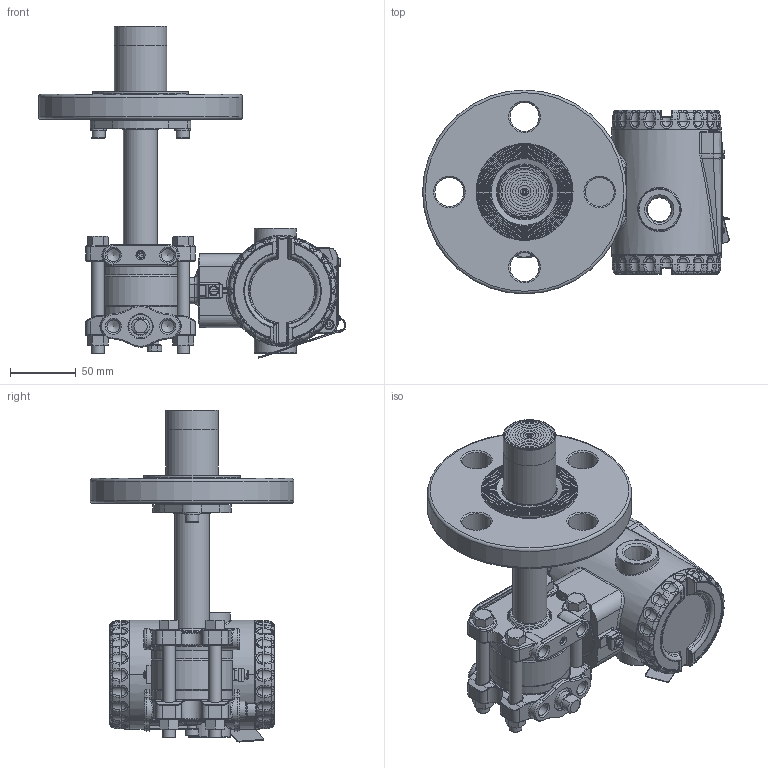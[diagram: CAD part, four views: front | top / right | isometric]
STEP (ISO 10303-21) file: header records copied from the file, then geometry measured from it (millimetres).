
FILE_DESCRIPTION(/* description */ (''),/* implementation_level */ '2;1');
FILE_NAME(/* name */ 'F:\Area\Desenvolvimento_2\Projects\Sensor\projetos\LD400-3d\dimensionais 3D clientes\LD400L\LD400L 1-1-2-300 RF ext 50 ref 1-4NPT purga acima.stp',/* time_stamp */ '2023-02-23T14:50:25-03:00',/* author */ ('inventor02'),/* organization */ (''),/* preprocessor_version */ 'ST-DEVELOPER v17',/* originating_system */ 'Autodesk Inventor 2019',/* authorisation */ '');
FILE_SCHEMA (('CONFIG_CONTROL_DESIGN'));
Products named in the file (41): LD30XL 1-1-2-300 RF ext 50 ref 1-4NPT purga acima; 204-0301-L-1-1-2 300 RF ext 50 purga acima; nivel fx3 com baixa diferencial 1-4NPT purga acima; involucro fx0-3 apos a usinagem final; flange diferencial std purga; 101-C-7484-01 flange selo nivel VR; 201-A-0504-tubo união teste 1; bujao 1-4NPT; Sangria; Porca 3-8 x 16 UNC; Paraf. 3-8 x 16 UNC; adaptação tubo x flanges 1-1-2 a 4pol; 101-B-0161-anel cortado do tubo - teste1; 101-B-0162-flange fixação tubo; ANSI B18.3.1M - M6x1 x 16; DIN 127 - A 6; flange 1-1-2 300 ext 50; 101-B-7699-01 ext 1-1-2-50; 101-B-5190-03; 101-C-3331-02; Carcaça 400 com tampas e plaqueta sem letras; 101-D-0845-05 carcaça LD400 sem letras; 101-B-3614-03-tampa 400 sem letras; Tampa visor 400 montada sem letras; 101-B-3612-05 tampa visor 400 sem letras; 101-A-6107; oring 2034; 00034775-0; WHW_250; DIN 915 - M6 x 10; Chapa aterramento externo; 201-A-1771-02 inserto terra recartilhado; AS 1969 - ST4,2; ISO 1207 - M4 x 8; ANSI B18.3.1M - M4x0,7 x 8; Subconjunto plaqueta 400; plaqueta 400 em branco; Parafuso da Plaqueta; Rebite da Plaqueta; 096-A-0169-03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
Assembly tree (50 placements, depth 4):
  LD30XL 1-1-2-300 RF ext 50 ref 1-4NPT purga acima
    204-0301-L-1-1-2 300 RF ext 50 purga acima
      nivel fx3 com baixa diferencial 1-4NPT purga acima
        involucro fx0-3 apos a usinagem final
        flange diferencial std purga
        101-C-7484-01 flange selo nivel VR
        201-A-0504-tubo união teste 1
        DIN 915 - M6 x 10
        bujao 1-4NPT
        Sangria
        Porca 3-8 x 16 UNC  x4
        Paraf. 3-8 x 16 UNC  x4
      adaptação tubo x flanges 1-1-2 a 4pol
        101-B-0161-anel cortado do tubo - teste1
        101-B-0162-flange fixação tubo
        ANSI B18.3.1M - M6x1 x 16  x2
        DIN 127 - A 6  x2
      flange 1-1-2 300 ext 50
        101-B-7699-01 ext 1-1-2-50
        101-B-5190-03
        101-C-3331-02
    Carcaça 400 com tampas e plaqueta sem letras
      101-D-0845-05 carcaça LD400 sem letras
      101-B-3614-03-tampa 400 sem letras
      Tampa visor 400 montada sem letras
        101-B-3612-05 tampa visor 400 sem letras
        101-A-6107
        oring 2034
        00034775-0
        WHW_250
      DIN 915 - M6 x 10
      Chapa aterramento externo
      201-A-1771-02 inserto terra recartilhado
      AS 1969 - ST4,2
      ISO 1207 - M4 x 8
      ANSI B18.3.1M - M4x0,7 x 8  x2
      Subconjunto plaqueta 400
        plaqueta 400 em branco
        Parafuso da Plaqueta
        Rebite da Plaqueta
        096-A-0169-03
        101-A-0502-01
Bounding box: 233.25 x 155 x 252.42 mm (x, y, z)
Volume: 992753.5 mm3; surface area: 323632.3 mm2
Topology: 43 solids, 43 shells, 2761 faces, 6703 edges, 4023 vertices
Faces by surface type: plane 721, cylinder 664, bspline 605, torus 473, cone 222, sphere 76
Full cylindrical faces by diameter (mm): 2 x4, 2.1 x1, 2.2 x1, 2.459 x3, 2.5 x1, 2.7 x1, 2.8 x1, 3 x4, 3.242 x3, 3.5 x1, 3.571 x1, 4 x5, 4.3 x2, 4.4 x1, 4.917 x4, 5 x1, 5.5 x3, 6 x6, 6.1 x2, 6.2 x1, 6.647 x1, 7 x5, 7.6 x2, 7.798 x4, 8 x1, 9.525 x4, 9.728 x6, 10 x2, 10.5 x8, 10.719 x2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
Entity records: 98556 total; most frequent: CARTESIAN_POINT 37075, DIRECTION 12670, ORIENTED_EDGE 12646, EDGE_CURVE 6323, AXIS2_PLACEMENT_3D 5424, VERTEX_POINT 3829, CIRCLE 3151, EDGE_LOOP 2796
